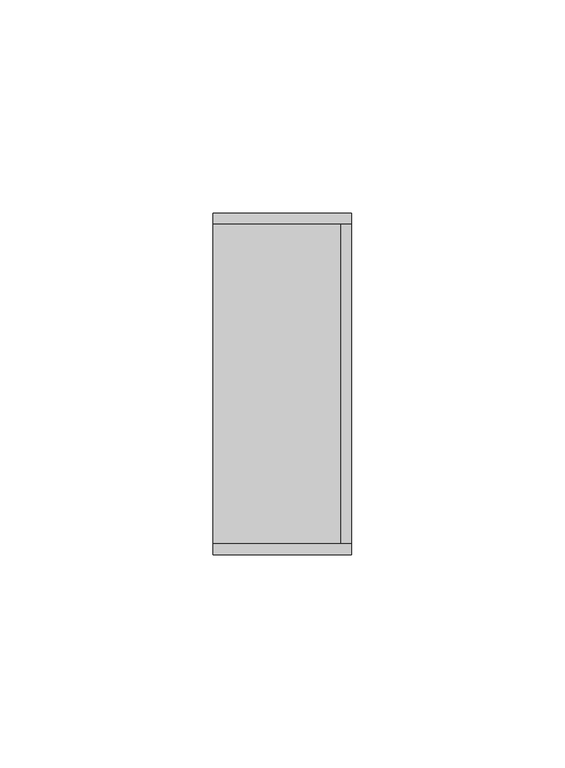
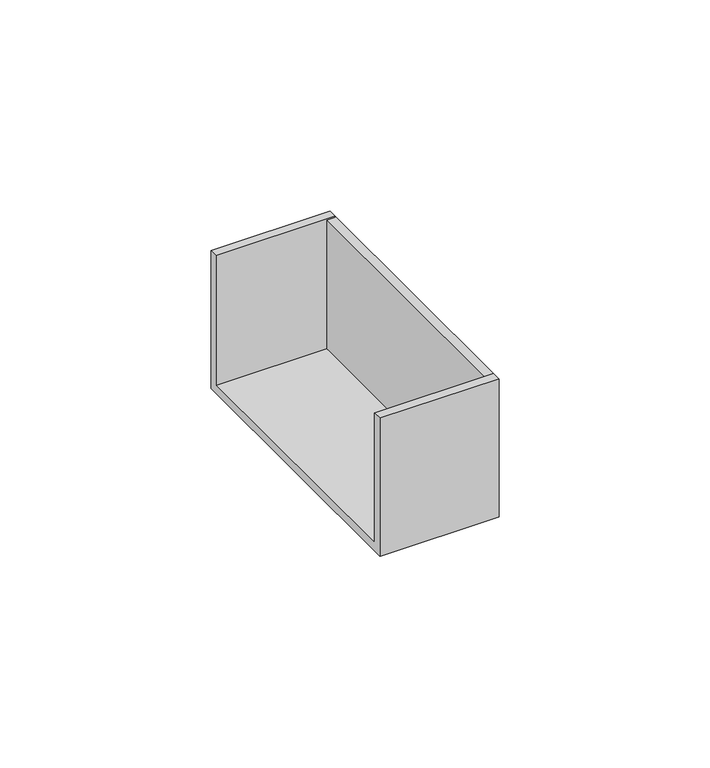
"""IFC4 building model written with IfcOpenShell, lengths in millimetres: cable carrier fitting geometry, КНС_ЗаглушкаТорцеваяLAN_ILC_DKC : Заглушка торцевая LAN_DKC."""

import ifcopenshell
import ifcopenshell.guid

model = None  # the IFC model being written
_history = None  # IfcOwnerHistory: only IFC2X3 demands one
_inside = {}  # id of a spatial element -> (the spatial element, [elements in it])
_under = {}  # id of a project, library or spatial element -> (it, [spatial elements below it])
_declared = {}  # id of a project -> (the project, [libraries it declares])
_typed = {}  # id of a type object -> (the type object, [elements of that type])
_made_of = {}  # id of a material, layer set ... -> (it, [elements and type objects made of it])


def new_model(schema):
    """Start an empty IFC model of exactly this schema.

    Asked for "IFC4X3", IfcOpenShell would pick the latest addendum, in which some entities
    have other attributes; the version numbers below select the first issue.
    IFC2X3 requires an IfcOwnerHistory on every rooted entity: one is made here for all.
    """
    global model, _history
    if schema == "IFC4X3":
        model = ifcopenshell.file(schema_version=(4, 3, 0, 0))
    else:
        model = ifcopenshell.file(schema=schema)
    _inside.clear()
    _under.clear()
    _declared.clear()
    _typed.clear()
    _made_of.clear()
    _history = None
    if model.schema == "IFC2X3":
        org = make("IfcOrganization", Name="unknown")
        user = make(
            "IfcPersonAndOrganization",
            ThePerson=make("IfcPerson", FamilyName="unknown"),
            TheOrganization=org,
        )
        app = make(
            "IfcApplication",
            ApplicationDeveloper=org,
            Version="unknown",
            ApplicationFullName="unknown",
            ApplicationIdentifier="unknown",
        )
        _history = make(
            "IfcOwnerHistory",
            OwningUser=user,
            OwningApplication=app,
            ChangeAction="ADDED",
            CreationDate=0,
        )
    return model


def make(cls, **values):
    """One entity of the class cls with the attributes given. An attribute that is None is left unset."""
    return model.create_entity(
        cls, **{name: value for name, value in values.items() if value is not None}
    )


def rooted(cls, **values):
    """An entity with a GlobalId (a new one), such as an element, a storey or a relation."""
    return make(cls, GlobalId=ifcopenshell.guid.new(), OwnerHistory=_history, **values)


def si_unit(unit_type, name, prefix=None):
    """IfcSIUnit, for example si_unit("LENGTHUNIT", "METRE", prefix="MILLI")."""
    return make("IfcSIUnit", UnitType=unit_type, Prefix=prefix, Name=name)


def assignment(units):
    """IfcUnitAssignment: the units of a project."""
    return None if units is None else make("IfcUnitAssignment", Units=units)


def point(xyz):
    """IfcCartesianPoint."""
    return None if xyz is None else make("IfcCartesianPoint", Coordinates=xyz)


def direction(xyz):
    """IfcDirection."""
    return None if xyz is None else make("IfcDirection", DirectionRatios=xyz)


def frame(location, z_axis=None, x_axis=None):
    """IfcAxis2Placement3D, a coordinate frame: its origin and axes. An axis left out is left unset."""
    return make(
        "IfcAxis2Placement3D",
        Location=point(location),
        Axis=direction(z_axis),
        RefDirection=direction(x_axis),
    )


def origin():
    """The frame at (0, 0, 0) with its axes left unset."""
    return frame((0.0, 0.0, 0.0))


def place(relative_to, where):
    """IfcLocalPlacement: puts the frame where relative to a parent placement (None: the world)."""
    return make(
        "IfcLocalPlacement", PlacementRelTo=relative_to, RelativePlacement=where
    )


def context(
    kind, dimensions, precision=None, world=None, true_north=None, identifier=None
):
    """IfcGeometricRepresentationContext, for example the 3D "Model" context."""
    return make(
        "IfcGeometricRepresentationContext",
        ContextIdentifier=identifier,
        ContextType=kind,
        CoordinateSpaceDimension=dimensions,
        Precision=precision,
        WorldCoordinateSystem=world,
        TrueNorth=true_north,
    )


def project(units=None, contexts=None):
    """IfcProject with its units and contexts."""
    return rooted(
        "IfcProject",
        Name="project",
        RepresentationContexts=contexts,
        UnitsInContext=assignment(units),
    )


def spatial(cls, under=None, at=None, **own):
    """A site, building, storey or space (cls), placed at a placement, below another one or the project."""
    s = rooted(cls, ObjectPlacement=at, **own)
    if under is not None:
        _under.setdefault(under.id(), (under, []))[1].append(s)
    return s


def polyline(points):
    """IfcPolyline through the points."""
    return make("IfcPolyline", Points=[point(p) for p in points])


def outline(outer, holes=None, kind="AREA"):
    """IfcArbitraryClosedProfileDef: a profile drawn as a closed curve; with holes, ...WithVoids."""
    if holes is None:
        return make("IfcArbitraryClosedProfileDef", ProfileType=kind, OuterCurve=outer)
    return make(
        "IfcArbitraryProfileDefWithVoids",
        ProfileType=kind,
        OuterCurve=outer,
        InnerCurves=holes,
    )


def extrude(swept, where, along, depth):
    """IfcExtrudedAreaSolid: the profile swept, set in the frame where, extruded along a direction by depth."""
    return make(
        "IfcExtrudedAreaSolid",
        SweptArea=swept,
        Position=where,
        ExtrudedDirection=direction(along),
        Depth=depth,
    )


def shape(context_of_items, identifier, shape_type, items):
    """IfcShapeRepresentation: the items that make up one representation, for example the "Body"."""
    return make(
        "IfcShapeRepresentation",
        ContextOfItems=context_of_items,
        RepresentationIdentifier=identifier,
        RepresentationType=shape_type,
        Items=items,
    )


def source(mapping_origin, context_of_items, identifier, shape_type, items):
    """IfcRepresentationMap: a shape defined once, which mapped items show again and again."""
    return make(
        "IfcRepresentationMap",
        MappingOrigin=mapping_origin,
        MappedRepresentation=shape(context_of_items, identifier, shape_type, items),
    )


def transform(
    local_origin,
    x_axis=None,
    y_axis=None,
    z_axis=None,
    scale=None,
    scale2=None,
    scale3=None,
    uniform=True,
):
    """IfcCartesianTransformationOperator3D, or its non-uniform kind. x_axis, y_axis, z_axis: its Axis1, 2, 3."""
    if uniform:
        return make(
            "IfcCartesianTransformationOperator3D",
            Axis1=direction(x_axis),
            Axis2=direction(y_axis),
            LocalOrigin=point(local_origin),
            Scale=scale,
            Axis3=direction(z_axis),
        )
    return make(
        "IfcCartesianTransformationOperator3DnonUniform",
        Axis1=direction(x_axis),
        Axis2=direction(y_axis),
        LocalOrigin=point(local_origin),
        Scale=scale,
        Axis3=direction(z_axis),
        Scale2=scale2,
        Scale3=scale3,
    )


def mapped(mapping_source, mapping_target):
    """IfcMappedItem: shows the shape of a source again, moved by a transform."""
    return make(
        "IfcMappedItem", MappingSource=mapping_source, MappingTarget=mapping_target
    )


def made_of(thing, what):
    """Note that an element or type object is made of a material, layer set ...; save() writes the relation."""
    if what is not None:
        _made_of.setdefault(what.id(), (what, []))[1].append(thing)
    return thing


def element(
    cls,
    number,
    at=None,
    inside=None,
    cuts=None,
    type_object=None,
    material=None,
    context=None,
    identifier="Body",
    shape_type=None,
    held_by="IfcProductDefinitionShape",
    body=None,
    shapes=None,
    **own,
):
    """One element of the class cls, such as IfcWall. Its Tag is "e" and its number.

    at: its placement. inside: the storey or other place that contains it. cuts: it is an
    opening in that element (IfcRelVoidsElement). A single representation is given by context,
    identifier, shape_type and body (its items); several are given by shapes. held_by: the class
    of the entity that holds the representations. save() writes the other relations.
    """
    e = rooted(cls, Tag="e%d" % number, ObjectPlacement=at, **own)
    if body is not None:
        shapes = [shape(context, identifier, shape_type, body)]
    if shapes is not None:
        e.Representation = make(held_by, Representations=shapes)
    if inside is not None:
        _inside.setdefault(inside.id(), (inside, []))[1].append(e)
    if cuts is not None:
        rooted(
            "IfcRelVoidsElement", RelatingBuildingElement=cuts, RelatedOpeningElement=e
        )
    if type_object is not None:
        _typed.setdefault(type_object.id(), (type_object, []))[1].append(e)
    return made_of(e, material)


def aggregate(whole, parts):
    """IfcRelAggregates: a whole, such as a stair, and the parts it consists of."""
    return rooted("IfcRelAggregates", RelatingObject=whole, RelatedObjects=parts)


def save(model, path):
    """Write the relations noted so far, then the file.

    IfcRelAggregates (storeys below a building ...), IfcRelContainedInSpatialStructure (elements
    in a storey), IfcRelDefinesByType, IfcRelAssociatesMaterial and IfcRelDeclares: one each for
    every whole, place, type object, material and project.
    """
    for whole, parts in _under.values():
        aggregate(whole, parts)
    for where, things in _inside.values():
        rooted(
            "IfcRelContainedInSpatialStructure",
            RelatedElements=things,
            RelatingStructure=where,
        )
    for kind, things in _typed.values():
        rooted("IfcRelDefinesByType", RelatedObjects=things, RelatingType=kind)
    for what, things in _made_of.values():
        rooted("IfcRelAssociatesMaterial", RelatedObjects=things, RelatingMaterial=what)
    for by, libraries in _declared.values():
        rooted("IfcRelDeclares", RelatingContext=by, RelatedDefinitions=libraries)
    model.write(path)


def cable_carrier_fitting_0baf40f0(model_context):
    return source(origin(), model_context, "Body", "SweptSolid", [
        extrude(outline(polyline([(40.0, -20.0), (-40.0, -20.0), (-40.0, 20.0), (-37.5, 20.0), (-37.5, -17.5), (37.5, -17.5), (37.5, 20.0), (40.0, 20.0), (40.0, -20.0)])), frame((-32.5, 0.0, 0.0), z_axis=(1.0, 0.0, 0.0), x_axis=(0.0, 1.0, 0.0)), (0.0, 0.0, 1.0), 32.5),
        extrude(outline(polyline([(0.0, 37.5), (0.0, -37.5), (-2.5, -37.5), (-2.5, 37.5), (0.0, 37.5)])), frame((0.0, 0.0, -20.0), z_axis=(0.0, 0.0, 1.0), x_axis=(1.0, 0.0, 0.0)), (0.0, 0.0, 1.0), 40.0),
    ])


if __name__ == "__main__":
    model = new_model("IFC4")
    model_context = context("Model", 3, world=origin())
    ifc_project = project(units=[si_unit("LENGTHUNIT", "METRE", prefix="MILLI")], contexts=[model_context])
    site = spatial("IfcSite", under=ifc_project)
    building = spatial("IfcBuilding", under=site)
    placement = place(None, origin())
    cable_carrier_fitting_shape = cable_carrier_fitting_0baf40f0(model_context)
    element("IfcCableCarrierFitting", 1, ObjectType="КНС_ЗаглушкаТорцеваяLAN_ILC_DKC : Заглушка торцевая LAN_DKC", at=placement, inside=building, context=model_context, shape_type="MappedRepresentation", body=[
        mapped(cable_carrier_fitting_shape, transform((0.0, 0.0, 0.0), x_axis=(1.0, 0.0, 0.0), y_axis=(0.0, 1.0, 0.0), z_axis=(0.0, 0.0, 1.0))),
    ])
    save(model, "model.ifc")
